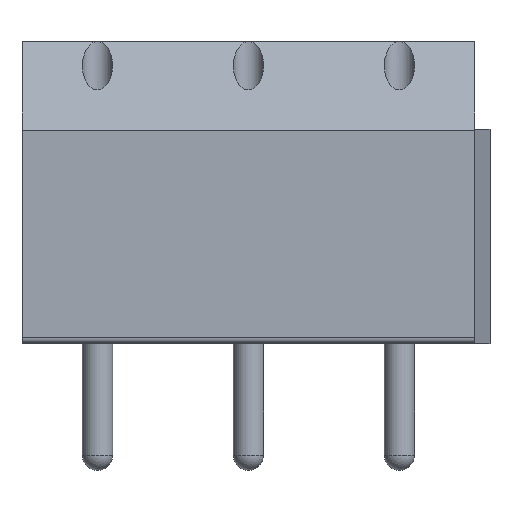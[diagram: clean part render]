
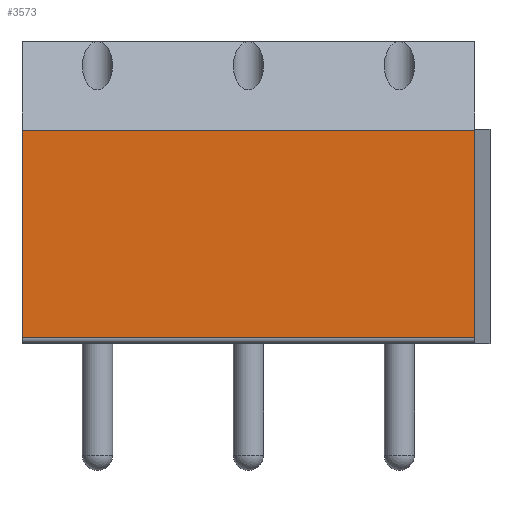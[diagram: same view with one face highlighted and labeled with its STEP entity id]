
A CAD part, front view. The second image highlights one B-rep face of the part: STEP entity #3573.
In plain terms, the highlighted planar face has unit normal (0, -1, 0).
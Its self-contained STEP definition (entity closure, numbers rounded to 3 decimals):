
#68 = FACE_OUTER_BOUND ( 'NONE', #2050, .T. ) ;
#220 = CARTESIAN_POINT ( 'NONE',  ( 7.5, -3.8, 0.2 ) ) ;
#470 = VECTOR ( 'NONE', #4146, 1000. ) ;
#632 = CARTESIAN_POINT ( 'NONE',  ( -7.5, -3.8, 0.2 ) ) ;
#1044 = CARTESIAN_POINT ( 'NONE',  ( 7.5, -3.8, 7.07 ) ) ;
#1117 = EDGE_CURVE ( 'NONE', #2618, #5892, #1349, .T. ) ;
#1209 = EDGE_CURVE ( 'NONE', #1226, #5892, #4309, .T. ) ;
#1226 = VERTEX_POINT ( 'NONE', #4252 ) ;
#1270 = ORIENTED_EDGE ( 'NONE', *, *, #5161, .T. ) ;
#1349 = LINE ( 'NONE', #4526, #470 ) ;
#1614 = DIRECTION ( 'NONE',  ( 1., 0., 0. ) ) ;
#1871 = CARTESIAN_POINT ( 'NONE',  ( -7.5, -3.8, 0. ) ) ;
#2017 = VECTOR ( 'NONE', #4707, 1000. ) ;
#2050 = EDGE_LOOP ( 'NONE', ( #1270, #4978, #5881, #3926 ) ) ;
#2066 = DIRECTION ( 'NONE',  ( 0., 0., 1. ) ) ;
#2231 = CARTESIAN_POINT ( 'NONE',  ( 7.5, -3.8, 0.2 ) ) ;
#2618 = VERTEX_POINT ( 'NONE', #632 ) ;
#2871 = PLANE ( 'NONE',  #4406 ) ;
#2932 = LINE ( 'NONE', #4251, #3638 ) ;
#3306 = DIRECTION ( 'NONE',  ( 0., 0., -1. ) ) ;
#3573 = ADVANCED_FACE ( 'NONE', ( #68 ), #2871, .T. ) ;
#3638 = VECTOR ( 'NONE', #1614, 1000. ) ;
#3859 = VERTEX_POINT ( 'NONE', #2231 ) ;
#3926 = ORIENTED_EDGE ( 'NONE', *, *, #5407, .T. ) ;
#4146 = DIRECTION ( 'NONE',  ( 0., 0., 1. ) ) ;
#4251 = CARTESIAN_POINT ( 'NONE',  ( -7.5, -3.8, 0.2 ) ) ;
#4252 = CARTESIAN_POINT ( 'NONE',  ( 7.5, -3.8, 7.07 ) ) ;
#4309 = LINE ( 'NONE', #1044, #2017 ) ;
#4343 = LINE ( 'NONE', #220, #5144 ) ;
#4406 = AXIS2_PLACEMENT_3D ( 'NONE', #1871, #5538, #3306 ) ;
#4414 = CARTESIAN_POINT ( 'NONE',  ( -7.5, -3.8, 7.07 ) ) ;
#4526 = CARTESIAN_POINT ( 'NONE',  ( -7.5, -3.8, 0.2 ) ) ;
#4707 = DIRECTION ( 'NONE',  ( -1., 0., 0. ) ) ;
#4978 = ORIENTED_EDGE ( 'NONE', *, *, #1209, .T. ) ;
#5144 = VECTOR ( 'NONE', #2066, 1000. ) ;
#5161 = EDGE_CURVE ( 'NONE', #3859, #1226, #4343, .T. ) ;
#5407 = EDGE_CURVE ( 'NONE', #2618, #3859, #2932, .T. ) ;
#5538 = DIRECTION ( 'NONE',  ( 0., -1., 0. ) ) ;
#5881 = ORIENTED_EDGE ( 'NONE', *, *, #1117, .F. ) ;
#5892 = VERTEX_POINT ( 'NONE', #4414 ) ;
